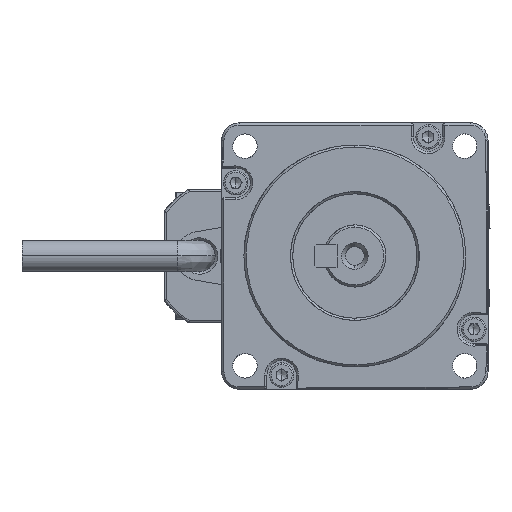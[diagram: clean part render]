
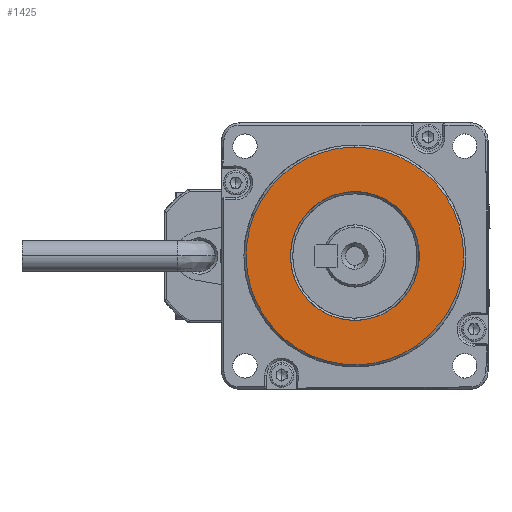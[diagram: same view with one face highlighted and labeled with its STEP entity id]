
A CAD part, left-side view. The second image highlights one B-rep face of the part: STEP entity #1425.
In plain terms, the highlighted planar face has unit normal (1, 0, 0).
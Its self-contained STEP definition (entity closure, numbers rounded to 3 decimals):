
#67=FACE_BOUND('',#3310,.T.);
#312=PLANE('',#15795);
#1425=ADVANCED_FACE('',(#2339,#67),#312,.T.);
#2339=FACE_OUTER_BOUND('',#3309,.T.);
#3309=EDGE_LOOP('',(#7007,#7008));
#3310=EDGE_LOOP('',(#7009,#7010));
#7007=ORIENTED_EDGE('',*,*,#9754,.T.);
#7008=ORIENTED_EDGE('',*,*,#9865,.T.);
#7009=ORIENTED_EDGE('',*,*,#9965,.T.);
#7010=ORIENTED_EDGE('',*,*,#9966,.T.);
#9754=EDGE_CURVE('',#14480,#14481,#12897,.T.);
#9865=EDGE_CURVE('',#14481,#14480,#12947,.T.);
#9965=EDGE_CURVE('',#14474,#14475,#11838,.T.);
#9966=EDGE_CURVE('',#14475,#14474,#11839,.T.);
#11838=B_SPLINE_CURVE_WITH_KNOTS('',3,(#43382,#43383,#43384,#43385,#43386,
#43387,#43388,#43389,#43390,#43391,#43392,#43393,#43394,#43395,#43396,#43397,
#43398,#43399,#43400,#43401,#43402,#43403,#43404,#43405,#43406,#43407,#43408,
#43409,#43410,#43411,#43412,#43413,#43414,#43415),.UNSPECIFIED.,.F.,.F.,
(4,2,2,2,2,2,2,2,2,2,2,2,2,2,2,2,4),(0.,0.062,0.125,0.188,
0.25,0.313,0.375,0.438,0.5,0.563,0.625,0.688,0.75,0.813,0.875,0.938,
1.),.UNSPECIFIED.);
#11839=B_SPLINE_CURVE_WITH_KNOTS('',3,(#43416,#43417,#43418,#43419,#43420,
#43421,#43422,#43423,#43424,#43425,#43426,#43427,#43428,#43429,#43430,#43431,
#43432,#43433,#43434,#43435,#43436,#43437,#43438,#43439,#43440,#43441,#43442,
#43443,#43444,#43445,#43446,#43447,#43448,#43449),.UNSPECIFIED.,.F.,.F.,
(4,2,2,2,2,2,2,2,2,2,2,2,2,2,2,2,4),(0.,0.062,0.125,0.188,
0.25,0.313,0.375,0.438,0.5,0.563,0.625,0.688,0.75,0.813,0.875,0.938,
1.),.UNSPECIFIED.);
#12897=(
BOUNDED_CURVE()
B_SPLINE_CURVE(2,(#41641,#41642,#41643,#41644,#41645),.UNSPECIFIED.,.F.,
 .F.)
B_SPLINE_CURVE_WITH_KNOTS((3,2,3),(0.,38.485,76.969),
 .UNSPECIFIED.)
CURVE()
GEOMETRIC_REPRESENTATION_ITEM()
RATIONAL_B_SPLINE_CURVE((1.,0.707,1.,0.707,1.))
REPRESENTATION_ITEM('')
);
#12947=(
BOUNDED_CURVE()
B_SPLINE_CURVE(2,(#41947,#41948,#41949,#41950,#41951),.UNSPECIFIED.,.F.,
 .F.)
B_SPLINE_CURVE_WITH_KNOTS((3,2,3),(0.,38.485,76.969),
 .UNSPECIFIED.)
CURVE()
GEOMETRIC_REPRESENTATION_ITEM()
RATIONAL_B_SPLINE_CURVE((1.,0.707,1.,0.707,1.))
REPRESENTATION_ITEM('')
);
#14474=VERTEX_POINT('',#41346);
#14475=VERTEX_POINT('',#41347);
#14480=VERTEX_POINT('',#41352);
#14481=VERTEX_POINT('',#41353);
#15795=AXIS2_PLACEMENT_3D('',#40580,#16079,$);
#16079=DIRECTION('',(1.,0.,0.));
#40580=CARTESIAN_POINT('',(-5.4,-29.401,-29.401));
#41346=CARTESIAN_POINT('',(-5.4,0.,-14.5));
#41347=CARTESIAN_POINT('',(-5.4,0.,14.5));
#41352=CARTESIAN_POINT('',(-5.4,0.,24.5));
#41353=CARTESIAN_POINT('',(-5.4,0.,-24.5));
#41641=CARTESIAN_POINT('',(-5.4,0.,24.5));
#41642=CARTESIAN_POINT('',(-5.4,-24.5,24.5));
#41643=CARTESIAN_POINT('',(-5.4,-24.5,0.));
#41644=CARTESIAN_POINT('',(-5.4,-24.5,-24.5));
#41645=CARTESIAN_POINT('',(-5.4,0.,-24.5));
#41947=CARTESIAN_POINT('',(-5.4,0.,-24.5));
#41948=CARTESIAN_POINT('',(-5.4,24.5,-24.5));
#41949=CARTESIAN_POINT('',(-5.4,24.5,0.));
#41950=CARTESIAN_POINT('',(-5.4,24.5,24.5));
#41951=CARTESIAN_POINT('',(-5.4,0.,24.5));
#43382=CARTESIAN_POINT('',(-5.4,0.,-14.5));
#43383=CARTESIAN_POINT('',(-5.4,-0.949,-14.5));
#43384=CARTESIAN_POINT('',(-5.4,-1.892,-14.407));
#43385=CARTESIAN_POINT('',(-5.4,-3.765,-14.034));
#43386=CARTESIAN_POINT('',(-5.4,-4.672,-13.759));
#43387=CARTESIAN_POINT('',(-5.4,-6.425,-13.033));
#43388=CARTESIAN_POINT('',(-5.4,-7.261,-12.586));
#43389=CARTESIAN_POINT('',(-5.4,-8.849,-11.525));
#43390=CARTESIAN_POINT('',(-5.4,-9.582,-10.924));
#43391=CARTESIAN_POINT('',(-5.4,-10.924,-9.582));
#43392=CARTESIAN_POINT('',(-5.4,-11.525,-8.849));
#43393=CARTESIAN_POINT('',(-5.4,-12.586,-7.261));
#43394=CARTESIAN_POINT('',(-5.4,-13.033,-6.425));
#43395=CARTESIAN_POINT('',(-5.4,-13.759,-4.672));
#43396=CARTESIAN_POINT('',(-5.4,-14.034,-3.765));
#43397=CARTESIAN_POINT('',(-5.4,-14.407,-1.892));
#43398=CARTESIAN_POINT('',(-5.4,-14.5,-0.949));
#43399=CARTESIAN_POINT('',(-5.4,-14.5,0.949));
#43400=CARTESIAN_POINT('',(-5.4,-14.407,1.892));
#43401=CARTESIAN_POINT('',(-5.4,-14.034,3.765));
#43402=CARTESIAN_POINT('',(-5.4,-13.759,4.672));
#43403=CARTESIAN_POINT('',(-5.4,-13.033,6.425));
#43404=CARTESIAN_POINT('',(-5.4,-12.586,7.261));
#43405=CARTESIAN_POINT('',(-5.4,-11.525,8.849));
#43406=CARTESIAN_POINT('',(-5.4,-10.924,9.582));
#43407=CARTESIAN_POINT('',(-5.4,-9.582,10.924));
#43408=CARTESIAN_POINT('',(-5.4,-8.849,11.525));
#43409=CARTESIAN_POINT('',(-5.4,-7.261,12.586));
#43410=CARTESIAN_POINT('',(-5.4,-6.425,13.033));
#43411=CARTESIAN_POINT('',(-5.4,-4.672,13.759));
#43412=CARTESIAN_POINT('',(-5.4,-3.765,14.034));
#43413=CARTESIAN_POINT('',(-5.4,-1.892,14.407));
#43414=CARTESIAN_POINT('',(-5.4,-0.949,14.5));
#43415=CARTESIAN_POINT('',(-5.4,0.,14.5));
#43416=CARTESIAN_POINT('',(-5.4,0.,14.5));
#43417=CARTESIAN_POINT('',(-5.4,0.949,14.5));
#43418=CARTESIAN_POINT('',(-5.4,1.892,14.407));
#43419=CARTESIAN_POINT('',(-5.4,3.765,14.034));
#43420=CARTESIAN_POINT('',(-5.4,4.672,13.759));
#43421=CARTESIAN_POINT('',(-5.4,6.425,13.033));
#43422=CARTESIAN_POINT('',(-5.4,7.261,12.586));
#43423=CARTESIAN_POINT('',(-5.4,8.849,11.525));
#43424=CARTESIAN_POINT('',(-5.4,9.582,10.924));
#43425=CARTESIAN_POINT('',(-5.4,10.924,9.582));
#43426=CARTESIAN_POINT('',(-5.4,11.525,8.849));
#43427=CARTESIAN_POINT('',(-5.4,12.586,7.261));
#43428=CARTESIAN_POINT('',(-5.4,13.033,6.425));
#43429=CARTESIAN_POINT('',(-5.4,13.759,4.672));
#43430=CARTESIAN_POINT('',(-5.4,14.034,3.765));
#43431=CARTESIAN_POINT('',(-5.4,14.407,1.892));
#43432=CARTESIAN_POINT('',(-5.4,14.5,0.949));
#43433=CARTESIAN_POINT('',(-5.4,14.5,-0.949));
#43434=CARTESIAN_POINT('',(-5.4,14.407,-1.892));
#43435=CARTESIAN_POINT('',(-5.4,14.034,-3.765));
#43436=CARTESIAN_POINT('',(-5.4,13.759,-4.672));
#43437=CARTESIAN_POINT('',(-5.4,13.033,-6.425));
#43438=CARTESIAN_POINT('',(-5.4,12.586,-7.261));
#43439=CARTESIAN_POINT('',(-5.4,11.525,-8.849));
#43440=CARTESIAN_POINT('',(-5.4,10.924,-9.582));
#43441=CARTESIAN_POINT('',(-5.4,9.582,-10.924));
#43442=CARTESIAN_POINT('',(-5.4,8.849,-11.525));
#43443=CARTESIAN_POINT('',(-5.4,7.261,-12.586));
#43444=CARTESIAN_POINT('',(-5.4,6.425,-13.033));
#43445=CARTESIAN_POINT('',(-5.4,4.672,-13.759));
#43446=CARTESIAN_POINT('',(-5.4,3.765,-14.034));
#43447=CARTESIAN_POINT('',(-5.4,1.892,-14.407));
#43448=CARTESIAN_POINT('',(-5.4,0.949,-14.5));
#43449=CARTESIAN_POINT('',(-5.4,0.,-14.5));
